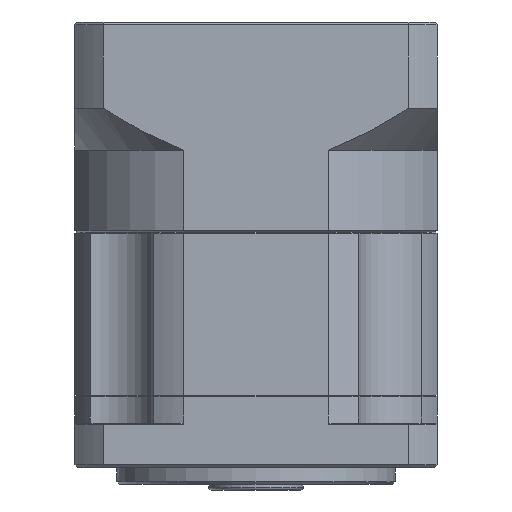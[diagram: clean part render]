
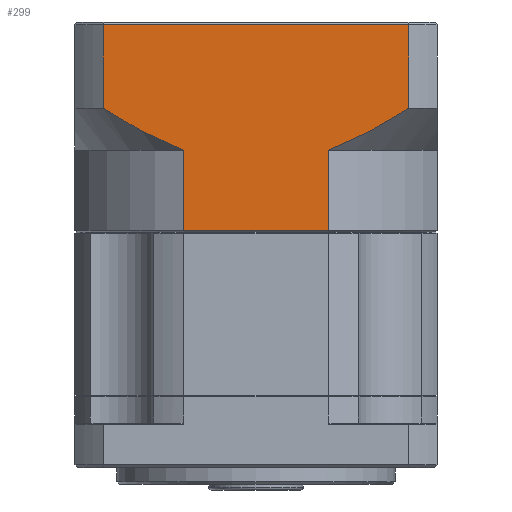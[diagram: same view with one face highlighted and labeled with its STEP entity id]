
A CAD part, front view. The second image highlights one B-rep face of the part: STEP entity #299.
In plain terms, the highlighted planar face has unit normal (0, -1, 0).
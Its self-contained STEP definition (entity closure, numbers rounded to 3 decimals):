
#299 = ADVANCED_FACE ( 'NONE', ( #21731 ), #6687, .F. ) ;
#1410 = DIRECTION ( 'NONE',  ( -1., 0., 0. ) ) ;
#6687 = PLANE ( 'NONE',  #10602 ) ;
#9617 = ORIENTED_EDGE ( 'NONE', *, *, #95021, .F. ) ;
#10602 = AXIS2_PLACEMENT_3D ( 'NONE', #42157, #105544, #51260 ) ;
#15806 = EDGE_CURVE ( 'NONE', #104985, #89028, #102381, .T. ) ;
#20218 = EDGE_CURVE ( 'NONE', #114758, #70039, #63245, .T. ) ;
#20725 = CARTESIAN_POINT ( 'NONE',  ( -25.856, 4.23, -3.302 ) ) ;
#21731 = FACE_OUTER_BOUND ( 'NONE', #58914, .T. ) ;
#22913 = VECTOR ( 'NONE', #115390, 1000. ) ;
#23932 = CARTESIAN_POINT ( 'NONE',  ( -57.542, 4.23, -2.955 ) ) ;
#24966 = VECTOR ( 'NONE', #87477, 1000. ) ;
#25012 = VERTEX_POINT ( 'NONE', #116824 ) ;
#26457 = LINE ( 'NONE', #74845, #114338 ) ;
#27315 = CARTESIAN_POINT ( 'NONE',  ( -54.376, 4.23, -18.656 ) ) ;
#27614 = B_SPLINE_CURVE_WITH_KNOTS ( 'NONE', 3,
 ( #55498, #65827, #82438, #109848, #65039, #28208, #20725, #74119 ),
 .UNSPECIFIED., .F., .F.,
 ( 4, 2, 2, 4 ),
 ( 0.059, 0.063, 0.067, 0.075 ),
 .UNSPECIFIED. ) ;
#28208 = CARTESIAN_POINT ( 'NONE',  ( -23.405, 4.23, -2.158 ) ) ;
#29871 = EDGE_CURVE ( 'NONE', #89028, #87575, #58236, .T. ) ;
#33289 = EDGE_CURVE ( 'NONE', #114758, #87575, #42994, .T. ) ;
#33843 = CARTESIAN_POINT ( 'NONE',  ( -66.503, 4.23, 1.793 ) ) ;
#41058 = ORIENTED_EDGE ( 'NONE', *, *, #115586, .F. ) ;
#41347 = CARTESIAN_POINT ( 'NONE',  ( -55.019, 4.23, -4.006 ) ) ;
#41360 = CARTESIAN_POINT ( 'NONE',  ( -68.772, 4.23, 3.255 ) ) ;
#42157 = CARTESIAN_POINT ( 'NONE',  ( -8.886, 4.23, 18.755 ) ) ;
#42308 = DIRECTION ( 'NONE',  ( 0., 0., 1. ) ) ;
#42526 = CARTESIAN_POINT ( 'NONE',  ( -60.607, 4.23, -1.5 ) ) ;
#42994 = LINE ( 'NONE', #117053, #109663 ) ;
#51260 = DIRECTION ( 'NONE',  ( -1., 0., 0. ) ) ;
#52086 = VERTEX_POINT ( 'NONE', #66409 ) ;
#53564 = ORIENTED_EDGE ( 'NONE', *, *, #20218, .F. ) ;
#54392 = CARTESIAN_POINT ( 'NONE',  ( -14., 4.23, 18.255 ) ) ;
#55498 = CARTESIAN_POINT ( 'NONE',  ( -14., 4.23, 3.255 ) ) ;
#58236 = LINE ( 'NONE', #98278, #22913 ) ;
#58735 = ORIENTED_EDGE ( 'NONE', *, *, #114064, .F. ) ;
#58914 = EDGE_LOOP ( 'NONE', ( #53564, #87128, #84535, #75625, #9617, #114008, #58735, #41058 ) ) ;
#59546 = CARTESIAN_POINT ( 'NONE',  ( -55.657, 4.23, -3.754 ) ) ;
#61313 = CARTESIAN_POINT ( 'NONE',  ( -28.395, 4.23, -4.245 ) ) ;
#63245 = LINE ( 'NONE', #113713, #24966 ) ;
#65039 = CARTESIAN_POINT ( 'NONE',  ( -19.811, 4.23, -0.249 ) ) ;
#65827 = CARTESIAN_POINT ( 'NONE',  ( -15.138, 4.23, 2.522 ) ) ;
#66122 = DIRECTION ( 'NONE',  ( 1., 0., 0. ) ) ;
#66409 = CARTESIAN_POINT ( 'NONE',  ( -28.395, 4.23, -18.656 ) ) ;
#68637 = CARTESIAN_POINT ( 'NONE',  ( -59.395, 4.23, -2.105 ) ) ;
#70039 = VERTEX_POINT ( 'NONE', #109319 ) ;
#71985 = DIRECTION ( 'NONE',  ( 0., 0., -1. ) ) ;
#74119 = CARTESIAN_POINT ( 'NONE',  ( -28.395, 4.23, -4.245 ) ) ;
#74845 = CARTESIAN_POINT ( 'NONE',  ( -8.886, 4.23, -18.656 ) ) ;
#75625 = ORIENTED_EDGE ( 'NONE', *, *, #15806, .F. ) ;
#76637 = EDGE_CURVE ( 'NONE', #88262, #52086, #26457, .T. ) ;
#82438 = CARTESIAN_POINT ( 'NONE',  ( -16.29, 4.23, 1.806 ) ) ;
#84535 = ORIENTED_EDGE ( 'NONE', *, *, #29871, .F. ) ;
#85396 = VECTOR ( 'NONE', #71985, 1000. ) ;
#85708 = CARTESIAN_POINT ( 'NONE',  ( -54.376, 4.23, -4.245 ) ) ;
#87128 = ORIENTED_EDGE ( 'NONE', *, *, #33289, .T. ) ;
#87477 = DIRECTION ( 'NONE',  ( 0., 0., -1. ) ) ;
#87575 = VERTEX_POINT ( 'NONE', #104715 ) ;
#87673 = CARTESIAN_POINT ( 'NONE',  ( -54.376, 4.23, -4.245 ) ) ;
#88262 = VERTEX_POINT ( 'NONE', #27315 ) ;
#89028 = VERTEX_POINT ( 'NONE', #41360 ) ;
#95021 = EDGE_CURVE ( 'NONE', #88262, #104985, #99302, .T. ) ;
#98278 = CARTESIAN_POINT ( 'NONE',  ( -68.772, 4.23, 0.755 ) ) ;
#99302 = LINE ( 'NONE', #114453, #104947 ) ;
#102381 = B_SPLINE_CURVE_WITH_KNOTS ( 'NONE', 3,
 ( #87673, #41347, #59546, #105883, #23932, #68637, #42526, #104720, #33843, #105110 ),
 .UNSPECIFIED., .F., .F.,
 ( 4, 2, 2, 2, 4 ),
 ( 0.101, 0.104, 0.106, 0.11, 0.118 ),
 .UNSPECIFIED. ) ;
#104715 = CARTESIAN_POINT ( 'NONE',  ( -68.772, 4.23, 18.255 ) ) ;
#104720 = CARTESIAN_POINT ( 'NONE',  ( -64.188, 4.23, 0.405 ) ) ;
#104947 = VECTOR ( 'NONE', #42308, 1000. ) ;
#104985 = VERTEX_POINT ( 'NONE', #85708 ) ;
#105110 = CARTESIAN_POINT ( 'NONE',  ( -68.772, 4.23, 3.255 ) ) ;
#105544 = DIRECTION ( 'NONE',  ( 0., 1., 0. ) ) ;
#105883 = CARTESIAN_POINT ( 'NONE',  ( -56.918, 4.23, -3.228 ) ) ;
#109319 = CARTESIAN_POINT ( 'NONE',  ( -14., 4.23, 3.255 ) ) ;
#109556 = LINE ( 'NONE', #61313, #85396 ) ;
#109663 = VECTOR ( 'NONE', #1410, 1000. ) ;
#109848 = CARTESIAN_POINT ( 'NONE',  ( -18.625, 4.23, 0.421 ) ) ;
#113713 = CARTESIAN_POINT ( 'NONE',  ( -14., 4.23, 0.755 ) ) ;
#114008 = ORIENTED_EDGE ( 'NONE', *, *, #76637, .T. ) ;
#114064 = EDGE_CURVE ( 'NONE', #25012, #52086, #109556, .T. ) ;
#114338 = VECTOR ( 'NONE', #66122, 1000. ) ;
#114453 = CARTESIAN_POINT ( 'NONE',  ( -54.376, 4.23, -4.245 ) ) ;
#114758 = VERTEX_POINT ( 'NONE', #54392 ) ;
#115390 = DIRECTION ( 'NONE',  ( 0., 0., 1. ) ) ;
#115586 = EDGE_CURVE ( 'NONE', #70039, #25012, #27614, .T. ) ;
#116824 = CARTESIAN_POINT ( 'NONE',  ( -28.395, 4.23, -4.245 ) ) ;
#117053 = CARTESIAN_POINT ( 'NONE',  ( -68.772, 4.23, 18.255 ) ) ;
